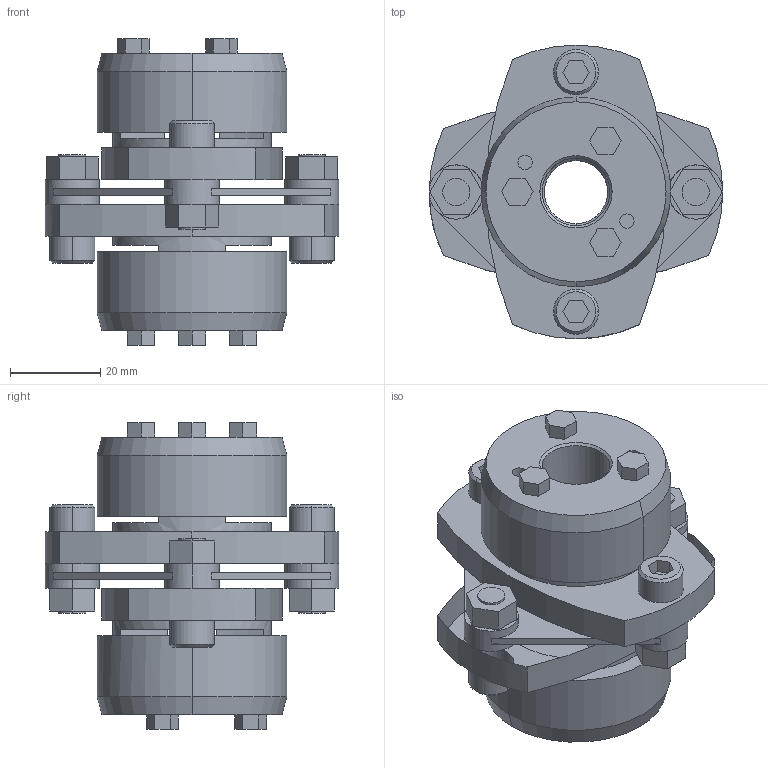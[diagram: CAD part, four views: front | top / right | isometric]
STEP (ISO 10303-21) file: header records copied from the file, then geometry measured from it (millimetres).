
FILE_DESCRIPTION((''),'2;1');
FILE_NAME('LCS-65T7-14×14.stp','2015-10-28T08:43:15',(''),(''),'AutoCAD STEP 2000i','AutoCAD 2000i',', , ');
FILE_SCHEMA(('CONFIG_CONTROL_DESIGN'));
Length unit declared in the file: millimetre
Products named in the file (7): LCS-65T7-14×14; 忣兜1; LC65T7-T014-1; LC65T7-T014; LC65T7-T015-1; LC65T7-T015; LCS65-ITA
Assembly tree (6 placements, depth 2):
  LCS-65T7-14×14
    忣兜1
    LC65T7-T014-1
    LC65T7-T014
    LC65T7-T015-1
    LC65T7-T015
    LCS65-ITA
Bounding box: 65 x 65 x 67.9 mm (x, y, z)
Volume: 83552.4 mm3; surface area: 28198.9 mm2
Topology: 1 solids, 1 shells, 220 faces, 578 edges, 394 vertices
Faces by surface type: plane 132, cylinder 68, cone 20
Entity records: 6995 total; most frequent: DIRECTION 1230, CARTESIAN_POINT 1185, ORIENTED_EDGE 1128, EDGE_CURVE 564, AXIS2_PLACEMENT_3D 425, VECTOR 380, LINE 380, VERTEX_POINT 368
